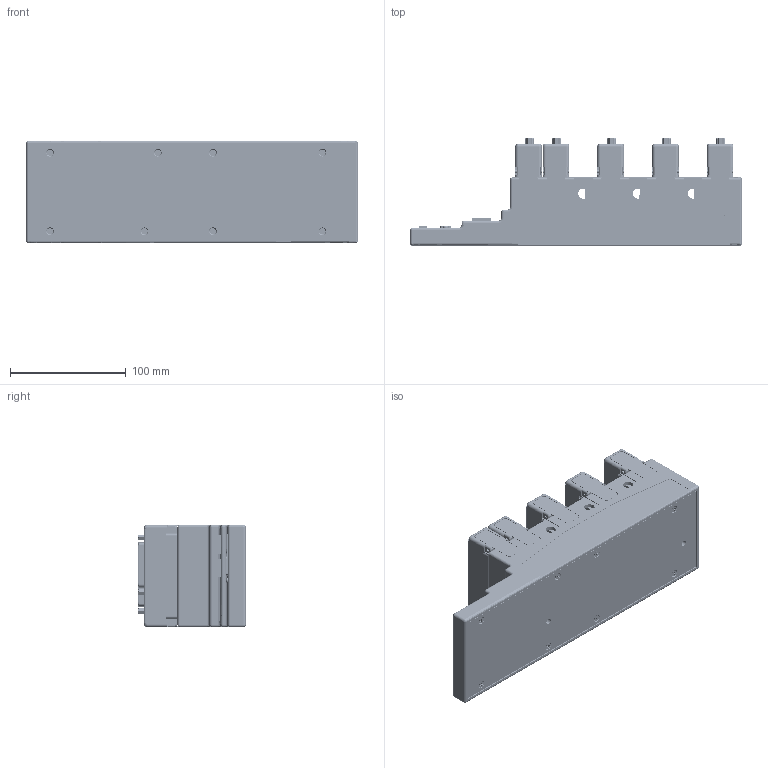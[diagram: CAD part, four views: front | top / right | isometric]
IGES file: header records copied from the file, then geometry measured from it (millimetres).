
Global section: file name: No Iges File Name specified; native system: AutoDesk Inventor R6.0; preprocessor: AutoDesk Inventor Iges Exporter R6.0; author: No Author specified; organization: No Organization specified; date: 20081218.205933; units: inch
Bounding box: 286.51 x 92.69 x 88.19 mm (x, y, z)
Surface area: 556210.8 mm2 (no closed solid volume)
Topology: 0 solids, 0 shells, 4601 faces, 22357 edges, 21063 vertices
Faces by surface type: revolution 2134, plane 1863, bspline 604
